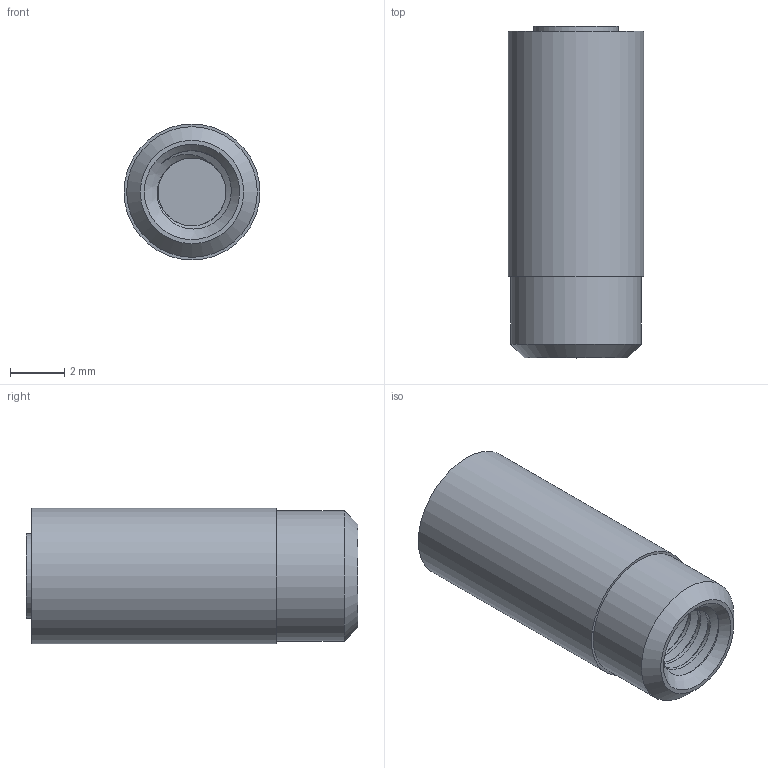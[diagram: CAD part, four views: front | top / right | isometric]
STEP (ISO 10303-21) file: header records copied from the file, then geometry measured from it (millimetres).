
FILE_DESCRIPTION (( 'STEP AP214' ), '1' );
FILE_NAME ('DKH-5.STEP', '2018-10-09T18:01:22', ( '' ), ( '' ), 'SwSTEP 2.0', 'SolidWorks 2017', '' );
FILE_SCHEMA (( 'AUTOMOTIVE_DESIGN' ));
Length unit declared in the file: millimetre
Products named in the file (1): DKH-5
Bounding box: 5 x 12.2 x 5 mm (x, y, z)
Volume: 206.8 mm3; surface area: 272.5 mm2
Topology: 1 solids, 1 shells, 87 faces, 226 edges, 151 vertices
Faces by surface type: plane 44, cylinder 38, bspline 3, cone 2
Full cylindrical faces by diameter (mm): 2.5 x5, 3.1 x1, 4.8 x1, 5 x1
Entity records: 3724 total; most frequent: CARTESIAN_POINT 1772, ORIENTED_EDGE 402, DIRECTION 303, EDGE_CURVE 201, VERTEX_POINT 137, LINE 123, VECTOR 123, EDGE_LOOP 98
